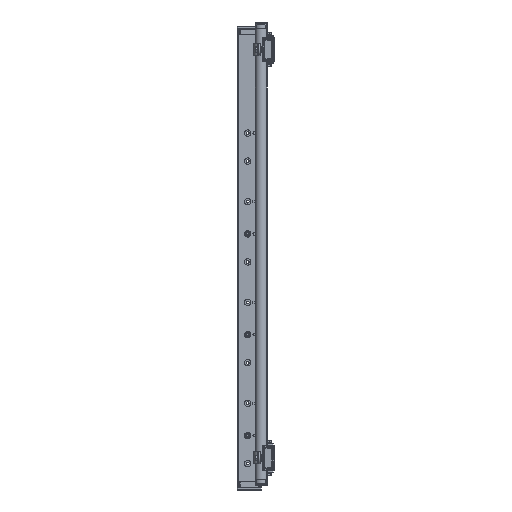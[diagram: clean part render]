
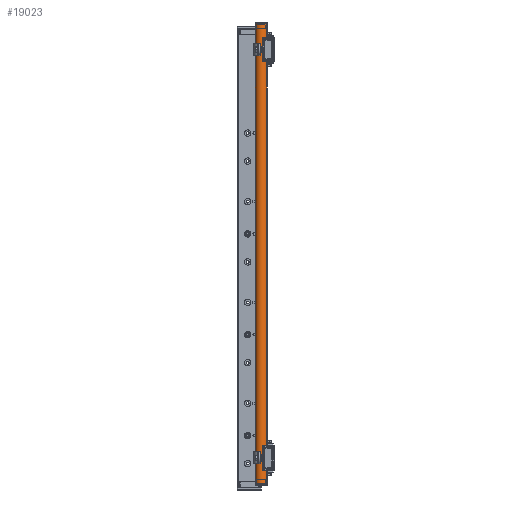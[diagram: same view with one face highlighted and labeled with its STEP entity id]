
A CAD part, left-side view. The second image highlights one B-rep face of the part: STEP entity #19023.
In plain terms, the highlighted cylindrical face has radius 15 mm (diameter 30 mm), a full revolution.
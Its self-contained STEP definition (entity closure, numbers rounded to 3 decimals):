
#949=CYLINDRICAL_SURFACE('',#20821,15.);
#2150=FACE_OUTER_BOUND('',#3388,.T.);
#3388=EDGE_LOOP('',(#17285,#17286,#17287,#17288));
#3948=CIRCLE('',#20822,15.);
#3949=CIRCLE('',#20823,15.);
#5964=LINE('',#31386,#7985);
#7985=VECTOR('',#25839,15.);
#9675=VERTEX_POINT('',#31383);
#9676=VERTEX_POINT('',#31385);
#12222=EDGE_CURVE('',#9675,#9675,#3948,.T.);
#12223=EDGE_CURVE('',#9675,#9676,#5964,.T.);
#12224=EDGE_CURVE('',#9676,#9676,#3949,.T.);
#17285=ORIENTED_EDGE('',*,*,#12222,.F.);
#17286=ORIENTED_EDGE('',*,*,#12223,.T.);
#17287=ORIENTED_EDGE('',*,*,#12224,.T.);
#17288=ORIENTED_EDGE('',*,*,#12223,.F.);
#19023=ADVANCED_FACE('',(#2150),#949,.T.);
#20821=AXIS2_PLACEMENT_3D('',#31382,#25835,#25836);
#20822=AXIS2_PLACEMENT_3D('',#31384,#25837,#25838);
#20823=AXIS2_PLACEMENT_3D('',#31387,#25840,#25841);
#25835=DIRECTION('center_axis',(0.,0.,1.));
#25836=DIRECTION('ref_axis',(1.,0.,0.));
#25837=DIRECTION('center_axis',(0.,0.,1.));
#25838=DIRECTION('ref_axis',(1.,0.,0.));
#25839=DIRECTION('',(0.,0.,-1.));
#25840=DIRECTION('center_axis',(0.,0.,1.));
#25841=DIRECTION('ref_axis',(1.,0.,0.));
#31382=CARTESIAN_POINT('Origin',(0.,0.,0.));
#31383=CARTESIAN_POINT('',(-15.,0.,1140.));
#31384=CARTESIAN_POINT('Origin',(0.,0.,1140.));
#31385=CARTESIAN_POINT('',(-15.,0.,0.));
#31386=CARTESIAN_POINT('',(-15.,0.,0.));
#31387=CARTESIAN_POINT('Origin',(0.,0.,0.));
